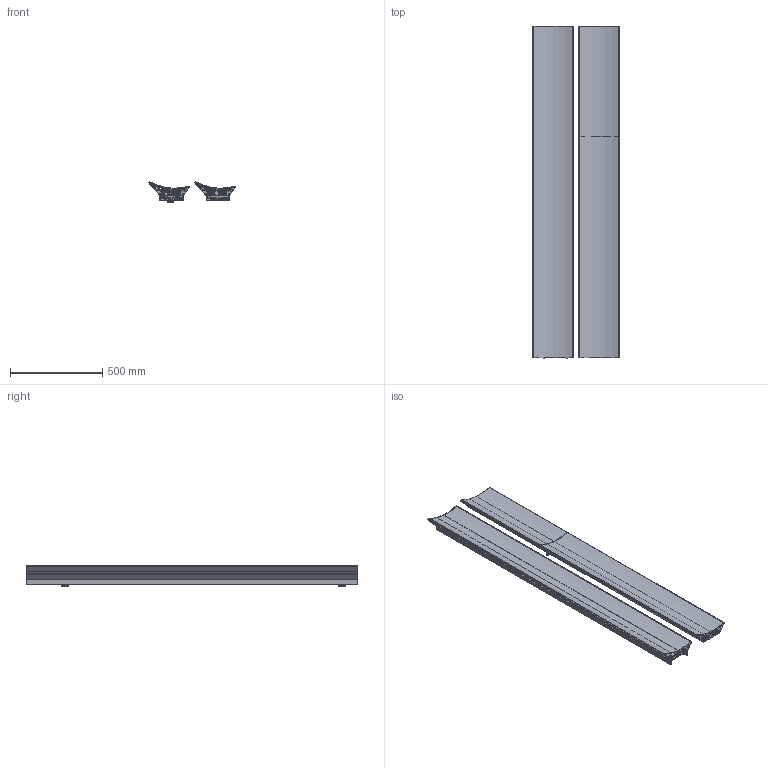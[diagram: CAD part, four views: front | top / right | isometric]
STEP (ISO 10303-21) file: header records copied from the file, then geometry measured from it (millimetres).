
FILE_DESCRIPTION (( 'STEP AP203' ), '1' );
FILE_NAME ('FPAR1801V.STEP', '2026-03-04T13:45:07', ( '' ), ( '' ), 'SwSTEP 2.0', 'SolidWorks 2025', '' );
FILE_SCHEMA (( 'CONFIG_CONTROL_DESIGN' ));
Length unit declared in the file: millimetre
Products named in the file (7): ESTRUSO PARENTHESIS_1800; TAPPO PICCOLO; FPAR1801V; COVER LATERALE PARENTHESIS_1803; COVER SUPERIORE; STAFFA FISSAGGIO; TAPPO GRANDE ESTRUSI
Assembly tree (11 placements, depth 2):
  FPAR1801V
    ESTRUSO PARENTHESIS_1800  x2
    COVER SUPERIORE  x2
    COVER LATERALE PARENTHESIS_1803  x2
    STAFFA FISSAGGIO  x2
    TAPPO GRANDE ESTRUSI
    TAPPO PICCOLO  x2
Bounding box: 474.53 x 1803 x 114.57 mm (x, y, z)
Volume: 9293067.1 mm3; surface area: 6206822.7 mm2
Topology: 28 solids, 28 shells, 1670 faces, 4554 edges, 2896 vertices
Faces by surface type: bspline 1359, plane 222, cylinder 49, torus 24, cone 16
Entity records: 46672 total; most frequent: CARTESIAN_POINT 29663, ORIENTED_EDGE 4854, EDGE_CURVE 2427, VERTEX_POINT 1550, B_SPLINE_CURVE_WITH_KNOTS 1211, DIRECTION 1198, EDGE_LOOP 995, FACE_OUTER_BOUND 903
